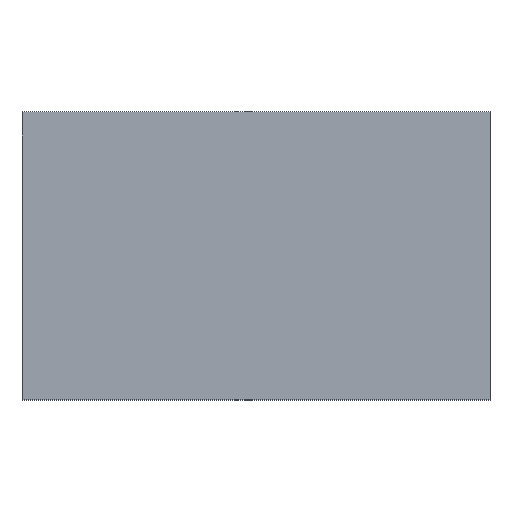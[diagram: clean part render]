
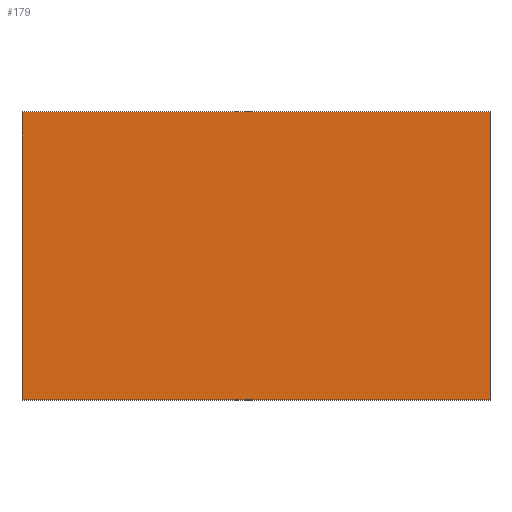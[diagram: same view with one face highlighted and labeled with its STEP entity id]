
A CAD part, top view. The second image highlights one B-rep face of the part: STEP entity #179.
In plain terms, the highlighted planar face has unit normal (0, 0, -1).
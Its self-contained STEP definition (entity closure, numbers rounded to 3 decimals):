
#108=CARTESIAN_POINT('',(0.,0.,16.));
#109=VERTEX_POINT('',#108);
#110=CARTESIAN_POINT('',(78.,0.,16.));
#111=VERTEX_POINT('',#110);
#112=CARTESIAN_POINT('',(78.,48.,16.));
#113=VERTEX_POINT('',#112);
#114=CARTESIAN_POINT('',(0.,48.,16.));
#115=VERTEX_POINT('',#114);
#148=DIRECTION('',(0.,1.,0.));
#149=VECTOR('',#148,48.);
#150=CARTESIAN_POINT('',(0.,0.,16.));
#151=LINE('',#150,#149);
#152=EDGE_CURVE('',#109,#115,#151,.T.);
#153=ORIENTED_EDGE('',*,*,#152,.T.);
#154=DIRECTION('',(1.,0.,0.));
#155=VECTOR('',#154,78.);
#156=CARTESIAN_POINT('',(0.,48.,16.));
#157=LINE('',#156,#155);
#158=EDGE_CURVE('',#115,#113,#157,.T.);
#159=ORIENTED_EDGE('',*,*,#158,.T.);
#160=DIRECTION('',(0.,-1.,0.));
#161=VECTOR('',#160,48.);
#162=CARTESIAN_POINT('',(78.,48.,16.));
#163=LINE('',#162,#161);
#164=EDGE_CURVE('',#113,#111,#163,.T.);
#165=ORIENTED_EDGE('',*,*,#164,.T.);
#166=DIRECTION('',(-1.,0.,0.));
#167=VECTOR('',#166,78.);
#168=CARTESIAN_POINT('',(78.,0.,16.));
#169=LINE('',#168,#167);
#170=EDGE_CURVE('',#111,#109,#169,.T.);
#171=ORIENTED_EDGE('',*,*,#170,.T.);
#172=EDGE_LOOP('',(#153,#159,#165,#171));
#173=FACE_OUTER_BOUND('',#172,.T.);
#174=CARTESIAN_POINT('',(0.,0.,16.));
#175=DIRECTION('',(0.,0.,-1.));
#176=DIRECTION('',(1.,0.,0.));
#177=AXIS2_PLACEMENT_3D('',#174,#175,#176);
#178=PLANE('',#177);
#179=ADVANCED_FACE('', (#173), #178, .T.);
